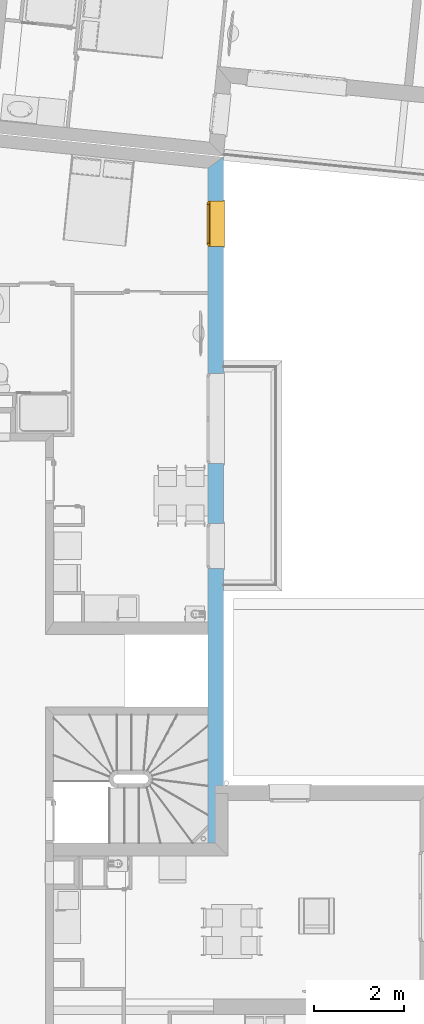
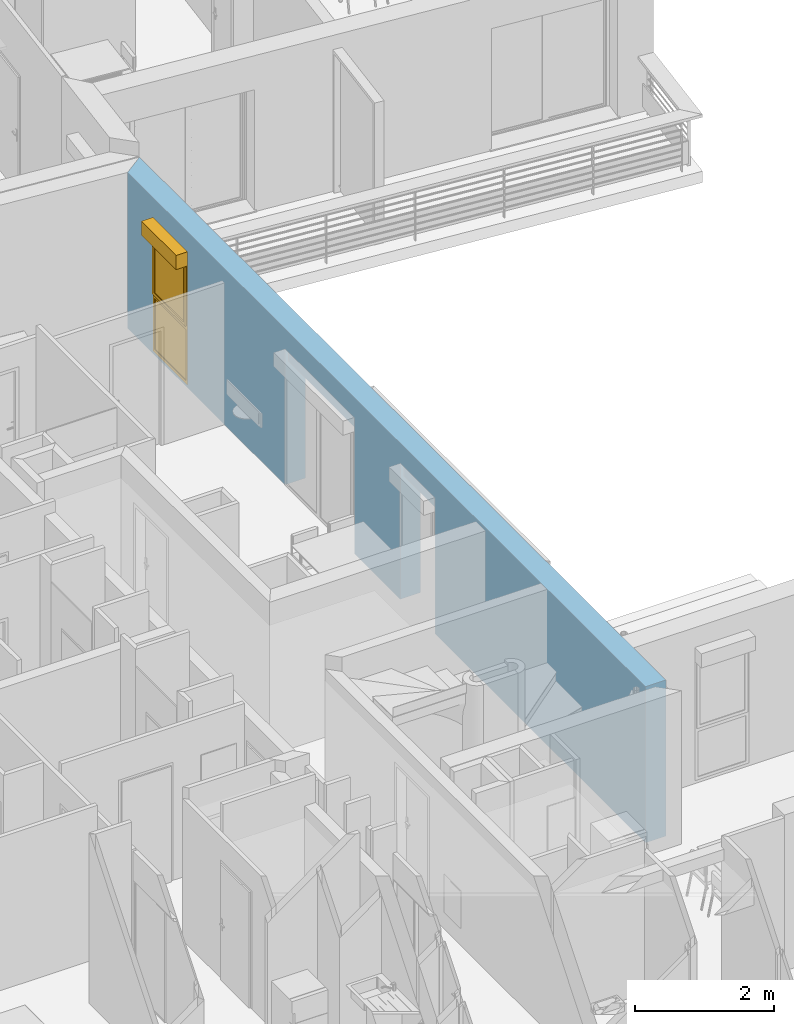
# One storey, part 33 of 164: 1 window, 3 openings, plus 1 element that does not belong to this part.
"""IFC2X3 building model written with IfcOpenShell, lengths in millimetres."""

from ifc_helpers import new_model, entity, si_unit, converted_unit, derived_unit, money_unit, direction, frame, origin_with_axes, place, context, subcontext, project, spatial, polyline, outline, extrude, open_shell, faceted_brep, surface_model, source, transform, mapped, material, layer, layer_set, layer_usage, type_object, element, fill, save


model = new_model("IFC2X3")

# Units and contexts
model_context = context("Model", 3, precision=0.01, world=origin_with_axes(), true_north=direction((0.0, 1.0)))
body_context = subcontext(model_context, "Body", "Model", "MODEL_VIEW")
ifc_project = project(units=[si_unit("LENGTHUNIT", "METRE", prefix="MILLI"), si_unit("AREAUNIT", "SQUARE_METRE"), si_unit("VOLUMEUNIT", "CUBIC_METRE"), converted_unit("PLANEANGLEUNIT", "DEGREE", entity("IfcPlaneAngleMeasure", 0.0174532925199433), si_unit("PLANEANGLEUNIT", "RADIAN"), dimensions=[0, 0, 0, 0, 0, 0, 0]), money_unit("USD"), converted_unit("TIMEUNIT", "Year", entity("IfcTimeMeasure", 31557600.0), si_unit("TIMEUNIT", "SECOND"), dimensions=[0, 0, 1, 0, 0, 0, 0]), si_unit("MASSUNIT", "GRAM", prefix="KILO"), si_unit("THERMODYNAMICTEMPERATUREUNIT", "DEGREE_CELSIUS"), si_unit("LUMINOUSINTENSITYUNIT", "LUMEN"), si_unit("ENERGYUNIT", "JOULE", prefix="MEGA"), derived_unit("THERMALCONDUCTANCEUNIT", [(si_unit("POWERUNIT", "WATT"), 1), (si_unit("LENGTHUNIT", "METRE"), -1), (si_unit("THERMODYNAMICTEMPERATUREUNIT", "KELVIN"), -1)]), derived_unit("SPECIFICHEATCAPACITYUNIT", [(si_unit("ENERGYUNIT", "JOULE"), 1), (si_unit("MASSUNIT", "GRAM", prefix="KILO"), -1), (si_unit("THERMODYNAMICTEMPERATUREUNIT", "KELVIN"), -1)]), derived_unit("MASSDENSITYUNIT", [(si_unit("MASSUNIT", "GRAM", prefix="KILO"), 1), (si_unit("VOLUMEUNIT", "CUBIC_METRE"), -1)])], contexts=[model_context])

# Site, building, storey
site_placement = place(None, origin_with_axes())
site = spatial("IfcSite", under=ifc_project, at=site_placement, Name="Site", CompositionType="ELEMENT")
building_placement = place(site_placement, origin_with_axes())
building = spatial("IfcBuilding", under=site, at=building_placement, Name="Bâtiment", CompositionType="ELEMENT")
storey_placement = place(building_placement, frame((0.0, 0.0, 5750.0), z_axis=(0.0, 0.0, 1.0), x_axis=(1.0, 0.0, 0.0)))
storey = spatial("IfcBuildingStorey", under=building, at=storey_placement, Name="Etage1", CompositionType="ELEMENT", Elevation=5750.0)

# Wall, openings, window
ifc_material_1 = material(Name="Parpaing 312445824")
ifc_layer_1 = layer(ifc_material_1, 180.0, ventilated="UNKNOWN")
ifc_material_2 = material(Name="Isolant styromousse 301821074")
ifc_layer_2 = layer(ifc_material_2, 160.0, ventilated="UNKNOWN")
ifc_layer_set = layer_set([ifc_layer_1, ifc_layer_2], Name="isol int 18+16 0018356637")
ifc_layer_usage = layer_usage(ifc_layer_set, "AXIS2", "POSITIVE", 0.0)
wall_type = type_object("IfcWallType", Name="isol int 18+16 0018356637 340", PredefinedType="NOTDEFINED")
wall_placement = place(storey_placement, frame((2229653.476036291, -637226.9969240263, 0.0), z_axis=(0.0, 0.0, 1.0), x_axis=(1.956350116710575e-10, 1.0, 0.0)))
wall = element("IfcWallStandardCase", 1, at=wall_placement, inside=storey, type_object=wall_type, material=ifc_layer_usage, Name="Mur-144", context=body_context, shape_type="SweptSolid", body=[
    extrude(outline(polyline([(0.0, 0.0), (15194.46708703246, 0.0), (14947.57710369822, 340.0000000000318), (0.0, 340.0000000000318), (0.0, 0.0)])), origin_with_axes(), (0.0, 0.0, 1.0), 2750.0),
])
opening_1_placement = place(wall_placement, frame((9401.851616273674, 0.0, 0.0), z_axis=(0.0, 0.0, 1.0), x_axis=(1.0, 0.0, 0.0)))
element("IfcOpeningElement", 2, at=opening_1_placement, cuts=wall, Name="Fen-207", context=body_context, shape_type="Brep", body=[
    faceted_brep([(999.9999999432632, 290.000002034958, 2150.0), (999.9999999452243, 280.0000020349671, 2150.0), (1000.000000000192, -1.000000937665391, 2150.0), (1000.000000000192, -1.000000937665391, 0.0), (999.9999999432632, 290.000002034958, 0.0), (999.9999999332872, 341.0000020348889, 2150.0), (999.9999998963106, 530.0000020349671, 2150.0), (999.9999998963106, 530.0000020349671, 2400.0), (999.9999999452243, 280.0000020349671, 2400.0), (-1000.000000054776, 280.0000016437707, 2150.0), (-999.9999999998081, -1.000001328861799, 2150.0), (-999.9999999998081, -1.000001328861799, 0.0), (-1000.000000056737, 290.0000016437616, 0.0), (-1000.000000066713, 341.0000016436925, 0.0), (999.9999999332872, 341.0000020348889, 0.0), (-1000.000000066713, 341.0000016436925, 2150.0), (-1000.000000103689, 530.0000016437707, 2150.0), (-1000.000000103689, 530.0000016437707, 2400.0), (-1000.000000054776, 280.0000016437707, 2400.0), (-1000.000000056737, 290.0000016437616, 2150.0)], [[[0, 1, 2, 3, 4]], [[1, 0, 5, 6, 7, 8]], [[1, 9, 10, 2]], [[10, 11, 3, 2]], [[4, 3, 11, 12, 13, 14]], [[5, 0, 4, 14]], [[5, 15, 16, 6]], [[7, 6, 16, 17]], [[8, 7, 17, 18]], [[9, 1, 8, 18]], [[9, 19, 12, 11, 10]], [[19, 15, 13, 12]], [[15, 5, 14, 13]], [[19, 9, 18, 17, 16, 15]]]),
])
opening_2_placement = place(wall_placement, frame((13719.0374769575, 0.0, 49.99999999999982), z_axis=(0.0, 0.0, 1.0), x_axis=(1.0, 0.0, 0.0)))
opening_2 = element("IfcOpeningElement", 3, at=opening_2_placement, cuts=wall, Name="Fen-133", context=body_context, shape_type="Brep", body=[
    faceted_brep([(499.9999999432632, 290.0000027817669, 2100.0), (499.9999999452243, 280.0000027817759, 2100.0), (500.0000000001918, -1.000000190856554, 2100.0), (500.0000000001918, -1.000000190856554, 0.0), (499.9999999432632, 290.0000027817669, 0.0), (499.9999999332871, 341.0000027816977, 2100.0), (499.9999998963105, 530.000002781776, 2100.0), (499.9999998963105, 530.000002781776, 2350.0), (499.9999999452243, 280.0000027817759, 2350.0), (-500.0000000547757, 280.0000025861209, 2100.0), (-499.9999999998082, -1.000000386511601, 2100.0), (-499.9999999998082, -1.000000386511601, 0.0), (-500.0000000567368, 290.0000025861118, 0.0), (-500.0000000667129, 341.0000025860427, 0.0), (499.9999999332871, 341.0000027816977, 0.0), (-500.0000000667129, 341.0000025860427, 2100.0), (-500.0000001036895, 530.0000025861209, 2100.0), (-500.0000001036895, 530.0000025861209, 2350.0), (-500.0000000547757, 280.0000025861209, 2350.0), (-500.0000000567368, 290.0000025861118, 2100.0)], [[[0, 1, 2, 3, 4]], [[1, 0, 5, 6, 7, 8]], [[1, 9, 10, 2]], [[10, 11, 3, 2]], [[4, 3, 11, 12, 13, 14]], [[5, 0, 4, 14]], [[5, 15, 16, 6]], [[7, 6, 16, 17]], [[8, 7, 17, 18]], [[9, 1, 8, 18]], [[9, 19, 12, 11, 10]], [[19, 15, 13, 12]], [[15, 5, 14, 13]], [[19, 9, 18, 17, 16, 15]]]),
])
opening_3_placement = place(wall_placement, frame((6575.924083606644, 0.0, 0.0), z_axis=(0.0, 0.0, 1.0), x_axis=(1.0, 0.0, 0.0)))
element("IfcOpeningElement", 4, at=opening_3_placement, cuts=wall, Name="Fen-134", context=body_context, shape_type="Brep", body=[
    faceted_brep([(499.9999999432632, 290.0000013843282, 2150.0), (499.9999999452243, 280.0000013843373, 2150.0), (500.0000000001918, -1.000001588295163, 2150.0), (500.0000000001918, -1.000001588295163, 0.0), (499.9999999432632, 290.0000013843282, 0.0), (499.9999999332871, 341.0000013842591, 2150.0), (499.9999998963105, 530.0000013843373, 2150.0), (499.9999998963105, 530.0000013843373, 2400.0), (499.9999999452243, 280.0000013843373, 2400.0), (-500.0000000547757, 280.0000011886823, 2150.0), (-499.9999999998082, -1.000001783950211, 2150.0), (-499.9999999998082, -1.000001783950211, 0.0), (-500.0000000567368, 290.0000011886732, 0.0), (-500.0000000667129, 341.0000011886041, 0.0), (499.9999999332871, 341.0000013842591, 0.0), (-500.0000000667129, 341.0000011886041, 2150.0), (-500.0000001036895, 530.0000011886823, 2150.0), (-500.0000001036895, 530.0000011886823, 2400.0), (-500.0000000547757, 280.0000011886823, 2400.0), (-500.0000000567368, 290.0000011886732, 2150.0)], [[[0, 1, 2, 3, 4]], [[1, 0, 5, 6, 7, 8]], [[1, 9, 10, 2]], [[10, 11, 3, 2]], [[4, 3, 11, 12, 13, 14]], [[5, 0, 4, 14]], [[5, 15, 16, 6]], [[16, 17, 7, 6]], [[17, 18, 8, 7]], [[9, 1, 8, 18]], [[9, 19, 12, 11, 10]], [[19, 15, 13, 12]], [[15, 5, 14, 13]], [[19, 9, 18, 17, 16, 15]]]),
])
window_style = type_object("IfcWindowStyle", Name="Fenêtre 27", ConstructionType="NOTDEFINED", OperationType="DOUBLE_PANEL_HORIZONTAL", ParameterTakesPrecedence=False, Sizeable=False)
shared_shape = source(origin_with_axes(), body_context, "Body", "SurfaceModel", [
    surface_model("IfcShellBasedSurfaceModel", [(500.0, -51.00000000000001, 40.00000000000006), (500.0, -51.00000000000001, 50.00000000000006), (-500.0, -51.00000000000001, 50.0), (-500.0, -51.00000000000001, 40.0), (530.0, -369.9999999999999, 28.96551724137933), (530.0, -339.9999999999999, 30.00324289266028), (500.0, -339.9999999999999, 30.00324289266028), (-500.0, -339.9999999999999, 30.00324289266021), (-530.0, -339.9999999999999, 30.00324289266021), (-530.0, -369.9999999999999, 28.96551724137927), (530.0, -369.9999999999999, 8.96551724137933), (-530.0, -369.9999999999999, 8.965517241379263), (530.0, -359.9999999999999, 18.96551724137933), (-530.0, -359.9999999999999, 18.96551724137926)], [open_shell([[[0, 1, 2, 3]], [[4, 5, 6, 0, 3, 7, 8, 9]], [[10, 4, 9, 11]], [[12, 10, 11, 13]]])]),
    faceted_brep([(-500.0, -59.99999999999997, 2350.0), (-497.0, -59.99999999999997, 2350.0), (-497.0, 190.0, 2350.0), (-500.0, 190.0, 2350.0), (-500.0, -59.99999999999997, 2100.0), (-497.0, -59.99999999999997, 2100.0), (-497.0, 190.0, 2100.0), (-500.0, 190.0, 2100.0)], [[[0, 1, 2, 3]], [[4, 5, 1, 0]], [[1, 5, 6, 2]], [[3, 2, 6, 7]], [[0, 3, 7, 4]], [[7, 6, 5, 4]]]),
    faceted_brep([(497.0, -59.99999999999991, 2350.0), (500.0, -59.99999999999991, 2350.0), (500.0, 190.0000000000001, 2350.0), (497.0, 190.0000000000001, 2350.0), (497.0, -59.99999999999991, 2100.0), (500.0, -59.99999999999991, 2100.0), (500.0, 190.0000000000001, 2100.0), (497.0, 190.0000000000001, 2100.0)], [[[0, 1, 2, 3]], [[4, 5, 1, 0]], [[1, 5, 6, 2]], [[3, 2, 6, 7]], [[0, 3, 7, 4]], [[7, 6, 5, 4]]]),
    faceted_brep([(-497.0, -60.0, 2100.0), (497.0, -59.99999999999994, 2100.0), (497.0, -59.99999999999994, 2350.0), (-497.0, -60.0, 2350.0), (-497.0, -56.99999999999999, 2100.0), (497.0, -56.99999999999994, 2100.0), (497.0, -56.99999999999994, 2347.0), (497.0, 187.0000000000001, 2347.0), (497.0, 187.0000000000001, 2103.0), (497.0, -37.99999999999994, 2103.0), (497.0, -37.99999999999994, 2100.0), (497.0, 190.0000000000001, 2100.0), (497.0, 190.0000000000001, 2350.0), (-497.0, 190.0, 2350.0), (-497.0, 190.0, 2100.0), (-497.0, -37.99999999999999, 2100.0), (-497.0, -37.99999999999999, 2103.0), (-497.0, 187.0, 2103.0), (-497.0, 187.0, 2347.0), (-497.0, -56.99999999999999, 2347.0)], [[[0, 1, 2, 3]], [[4, 5, 1, 0]], [[1, 5, 6, 7, 8, 9, 10, 11, 12, 2]], [[3, 2, 12, 13]], [[0, 3, 13, 14, 15, 16, 17, 18, 19, 4]], [[19, 6, 5, 4]], [[18, 7, 6, 19]], [[17, 8, 7, 18]], [[16, 9, 8, 17]], [[15, 10, 9, 16]], [[14, 11, 10, 15]], [[13, 12, 11, 14]]]),
    faceted_brep([(-494.0, -40.37442957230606, 2206.419644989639), (-494.0, -41.99999999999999, 2225.0), (-494.0, -40.37442957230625, 2243.580355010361), (-494.0, -35.54711042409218, 2261.596155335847), (-494.0, -27.66471820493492, 2278.5), (-494.0, -16.96675541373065, 2293.77827423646), (-494.0, -3.778274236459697, 2306.966755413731), (-494.0, 11.5, 2317.664718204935), (-494.0, 28.40384466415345, 2325.547110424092), (-494.0, 46.41964498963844, 2330.374429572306), (-494.0, 64.99999999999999, 2332.0), (-494.0, 83.58035501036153, 2330.374429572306), (-494.0, 101.5961553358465, 2325.547110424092), (-494.0, 118.5, 2317.664718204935), (-494.0, 133.7782742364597, 2306.966755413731), (-494.0, 146.9667554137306, 2293.77827423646), (-494.0, 157.6647182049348, 2278.5), (-494.0, 165.5471104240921, 2261.596155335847), (-494.0, 170.3744295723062, 2243.580355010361), (-494.0, 171.9999999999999, 2225.0), (-494.0, 170.3744295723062, 2206.419644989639), (-494.0, 165.5471104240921, 2188.403844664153), (-494.0, 157.6647182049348, 2171.5), (-494.0, 146.9667554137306, 2156.22172576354), (-494.0, 133.7782742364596, 2143.03324458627), (-494.0, 118.4999999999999, 2132.335281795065), (-494.0, 101.5961553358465, 2124.452889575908), (-494.0, 83.58035501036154, 2119.625570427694), (-494.0, 65.00000000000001, 2118.0), (-494.0, 46.4196449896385, 2119.625570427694), (-494.0, 28.40384466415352, 2124.452889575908), (-494.0, 11.50000000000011, 2132.335281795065), (-494.0, -3.778274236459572, 2143.03324458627), (-494.0, -16.9667554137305, 2156.22172576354), (-494.0, -27.66471820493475, 2171.5), (-494.0, -35.54711042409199, 2188.403844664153), (494.0, -40.374429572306, 2206.419644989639), (494.0, -41.99999999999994, 2225.0), (494.0, -40.37442957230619, 2243.580355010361), (494.0, -35.54711042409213, 2261.596155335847), (494.0, -27.66471820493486, 2278.5), (494.0, -16.96675541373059, 2293.77827423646), (494.0, -3.778274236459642, 2306.966755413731), (494.0, 11.50000000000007, 2317.664718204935), (494.0, 28.40384466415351, 2325.547110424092), (494.0, 46.41964498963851, 2330.374429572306), (494.0, 65.00000000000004, 2332.0), (494.0, 83.58035501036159, 2330.374429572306), (494.0, 101.5961553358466, 2325.547110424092), (494.0, 118.5, 2317.664718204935), (494.0, 133.7782742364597, 2306.966755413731), (494.0, 146.9667554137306, 2293.77827423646), (494.0, 157.6647182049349, 2278.5), (494.0, 165.5471104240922, 2261.596155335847), (494.0, 170.3744295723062, 2243.580355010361), (494.0, 172.0, 2225.0), (494.0, 170.3744295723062, 2206.419644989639), (494.0, 165.5471104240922, 2188.403844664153), (494.0, 157.6647182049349, 2171.5), (494.0, 146.9667554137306, 2156.22172576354), (494.0, 133.7782742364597, 2143.03324458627), (494.0, 118.5, 2132.335281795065), (494.0, 101.5961553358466, 2124.452889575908), (494.0, 83.5803550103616, 2119.625570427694), (494.0, 65.00000000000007, 2118.0), (494.0, 46.41964498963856, 2119.625570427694), (494.0, 28.40384466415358, 2124.452889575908), (494.0, 11.50000000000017, 2132.335281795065), (494.0, -3.778274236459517, 2143.03324458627), (494.0, -16.96675541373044, 2156.22172576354), (494.0, -27.6647182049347, 2171.5), (494.0, -35.54711042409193, 2188.403844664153)], [[[0, 1, 2, 3, 4, 5, 6, 7, 8, 9, 10, 11, 12, 13, 14, 15, 16, 17, 18, 19, 20, 21, 22, 23, 24, 25, 26, 27, 28, 29, 30, 31, 32, 33, 34, 35]], [[0, 36, 37, 1]], [[1, 37, 38, 2]], [[2, 38, 39, 3]], [[3, 39, 40, 4]], [[4, 40, 41, 5]], [[5, 41, 42, 6]], [[6, 42, 43, 7]], [[7, 43, 44, 8]], [[8, 44, 45, 9]], [[9, 45, 46, 10]], [[10, 46, 47, 11]], [[11, 47, 48, 12]], [[12, 48, 49, 13]], [[13, 49, 50, 14]], [[14, 50, 51, 15]], [[15, 51, 52, 16]], [[16, 52, 53, 17]], [[17, 53, 54, 18]], [[18, 54, 55, 19]], [[19, 55, 56, 20]], [[20, 56, 57, 21]], [[21, 57, 58, 22]], [[22, 58, 59, 23]], [[23, 59, 60, 24]], [[24, 60, 61, 25]], [[25, 61, 62, 26]], [[26, 62, 63, 27]], [[27, 63, 64, 28]], [[28, 64, 65, 29]], [[29, 65, 66, 30]], [[30, 66, 67, 31]], [[31, 67, 68, 32]], [[32, 68, 69, 33]], [[33, 69, 70, 34]], [[34, 70, 71, 35]], [[35, 71, 36, 0]], [[36, 71, 70, 69, 68, 67, 66, 65, 64, 63, 62, 61, 60, 59, 58, 57, 56, 55, 54, 53, 52, 51, 50, 49, 48, 47, 46, 45, 44, 43, 42, 41, 40, 39, 38, 37]]]),
    faceted_brep([(500.0, -34.99999999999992, 30.0), (500.0, -34.99999999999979, 2100.0), (500.0, -59.99999999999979, 2100.0), (500.0, -59.99999999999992, 30.0), (475.0, -34.99999999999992, 30.0), (475.0, -34.99999999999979, 2100.0), (475.0, -37.99999999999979, 2100.0), (497.0, -37.99999999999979, 2100.0), (497.0, -56.99999999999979, 2100.0), (475.0, -56.99999999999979, 2100.0), (475.0, -59.99999999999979, 2100.0), (475.0, -59.99999999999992, 30.0), (475.0, -56.99999999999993, 30.0), (497.0, -56.99999999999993, 30.0), (497.0, -37.99999999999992, 30.0), (475.0, -37.99999999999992, 30.0)], [[[0, 1, 2, 3]], [[4, 5, 1, 0]], [[1, 5, 6, 7, 8, 9, 10, 2]], [[3, 2, 10, 11]], [[0, 3, 11, 12, 13, 14, 15, 4]], [[15, 6, 5, 4]], [[14, 7, 6, 15]], [[13, 8, 7, 14]], [[12, 9, 8, 13]], [[11, 10, 9, 12]]]),
    faceted_brep([(-500.0, -34.99999999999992, 30.0), (-500.0, -59.99999999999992, 30.0), (-500.0, -59.99999999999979, 2100.0), (-500.0, -34.99999999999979, 2100.0), (-475.0, -34.99999999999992, 30.0), (-475.0, -37.99999999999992, 30.0), (-497.0, -37.99999999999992, 30.0), (-497.0, -56.99999999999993, 30.0), (-475.0, -56.99999999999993, 30.0), (-475.0, -59.99999999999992, 30.0), (-475.0, -59.99999999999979, 2100.0), (-475.0, -56.99999999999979, 2100.0), (-497.0, -56.99999999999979, 2100.0), (-497.0, -37.99999999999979, 2100.0), (-475.0, -37.99999999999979, 2100.0), (-475.0, -34.99999999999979, 2100.0)], [[[0, 1, 2, 3]], [[0, 4, 5, 6, 7, 8, 9, 1]], [[1, 9, 10, 2]], [[3, 2, 10, 11, 12, 13, 14, 15]], [[4, 0, 3, 15]], [[5, 4, 15, 14]], [[6, 5, 14, 13]], [[7, 6, 13, 12]], [[8, 7, 12, 11]], [[9, 8, 11, 10]]]),
    faceted_brep([(497.0, -46.66666666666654, 2225.0), (497.0, -46.66666666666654, 2216.666666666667), (-497.0, -46.6666666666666, 2216.666666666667), (-497.0, -46.6666666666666, 2225.0), (497.0, -51.66666666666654, 2225.0), (497.0, -51.66666666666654, 2216.666666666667), (497.0, -49.99999999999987, 2200.0), (497.0, -44.99999999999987, 2200.0), (-497.0, -44.99999999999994, 2200.0), (-497.0, -49.99999999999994, 2200.0), (-497.0, -51.6666666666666, 2216.666666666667), (-497.0, -51.6666666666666, 2225.0)], [[[0, 1, 2, 3]], [[4, 5, 6, 7, 1, 0]], [[2, 1, 7, 8]], [[3, 2, 8, 9, 10, 11]], [[3, 11, 4, 0]], [[10, 5, 4, 11]], [[9, 6, 5, 10]], [[8, 7, 6, 9]]]),
    faceted_brep([(-497.0, -44.99999999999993, 2200.0), (497.0, -44.99999999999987, 2200.0), (497.0, -46.66666666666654, 2183.333333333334), (-497.0, -46.6666666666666, 2183.333333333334), (-497.0, -49.99999999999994, 2200.0), (497.0, -49.99999999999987, 2200.0), (497.0, -51.66666666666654, 2183.333333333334), (497.0, -51.66666666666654, 2166.666666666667), (497.0, -49.99999999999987, 2150.000000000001), (497.0, -44.99999999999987, 2150.000000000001), (497.0, -46.66666666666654, 2166.666666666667), (-497.0, -46.6666666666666, 2166.666666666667), (-497.0, -44.99999999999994, 2150.000000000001), (-497.0, -49.99999999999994, 2150.000000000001), (-497.0, -51.6666666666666, 2166.666666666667), (-497.0, -51.6666666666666, 2183.333333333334)], [[[0, 1, 2, 3]], [[4, 5, 1, 0]], [[1, 5, 6, 7, 8, 9, 10, 2]], [[3, 2, 10, 11]], [[0, 3, 11, 12, 13, 14, 15, 4]], [[15, 6, 5, 4]], [[14, 7, 6, 15]], [[13, 8, 7, 14]], [[12, 9, 8, 13]], [[11, 10, 9, 12]]]),
    faceted_brep([(-497.0, -44.99999999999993, 2150.000000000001), (497.0, -44.99999999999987, 2150.000000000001), (497.0, -46.66666666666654, 2133.333333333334), (-497.0, -46.6666666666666, 2133.333333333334), (-497.0, -49.99999999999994, 2150.000000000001), (497.0, -49.99999999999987, 2150.000000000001), (497.0, -51.66666666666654, 2133.333333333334), (497.0, -51.66666666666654, 2116.666666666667), (497.0, -49.99999999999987, 2100.000000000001), (497.0, -44.99999999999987, 2100.000000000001), (497.0, -46.66666666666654, 2116.666666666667), (-497.0, -46.6666666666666, 2116.666666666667), (-497.0, -44.99999999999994, 2100.000000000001), (-497.0, -49.99999999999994, 2100.000000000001), (-497.0, -51.6666666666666, 2116.666666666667), (-497.0, -51.6666666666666, 2133.333333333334)], [[[0, 1, 2, 3]], [[4, 5, 1, 0]], [[1, 5, 6, 7, 8, 9, 10, 2]], [[3, 2, 10, 11]], [[0, 3, 11, 12, 13, 14, 15, 4]], [[15, 6, 5, 4]], [[14, 7, 6, 15]], [[13, 8, 7, 14]], [[12, 9, 8, 13]], [[11, 10, 9, 12]]]),
    faceted_brep([(-475.0000000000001, 0.0, 2050.0), (-500.0, 0.0, 2050.0), (-500.0, -50.00000000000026, 2050.0), (-450.0, -50.00000000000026, 2050.0), (-450.0, -25.00000000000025, 2050.0), (-475.0000000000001, -25.00000000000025, 2050.0), (-475.0000000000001, 0.0, 1025.0), (-450.0, 0.0, 1025.0), (-450.0, 0.0, 950.0), (-450.0, 0.0, 50.00000000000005), (-500.0, 0.0, 50.00000000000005), (-500.0, -50.00000000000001, 50.00000000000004), (-450.0, -50.00000000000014, 1050.0), (-450.0, -50.00000000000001, 50.00000000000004), (-450.0, -50.00000000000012, 950.0), (-450.0, -25.00000000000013, 1050.0), (-450.0, -25.00000000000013, 1025.0), (-475.0000000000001, -25.00000000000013, 1025.0)], [[[0, 1, 2, 3, 4, 5]], [[6, 7, 8, 9, 10, 1, 0]], [[1, 10, 11, 2]], [[12, 3, 2, 11, 13, 14]], [[4, 3, 12, 15]], [[15, 16, 17, 5, 4]], [[5, 17, 6, 0]], [[6, 17, 16, 7]], [[16, 15, 12, 14, 8, 7]], [[9, 8, 14, 13]], [[10, 9, 13, 11]]]),
    faceted_brep([(450.0, -25.00000000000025, 2050.0), (450.0, -50.00000000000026, 2050.0), (500.0, -50.00000000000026, 2050.0), (500.0, 0.0, 2050.0), (475.0000000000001, 0.0, 2050.0), (475.0000000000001, -25.00000000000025, 2050.0), (450.0, -25.00000000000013, 1050.0), (450.0, -50.00000000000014, 1050.0), (500.0, -50.00000000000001, 50.00000000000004), (450.0, -50.00000000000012, 950.0), (450.0, -50.00000000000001, 50.00000000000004), (500.0, 0.0, 50.00000000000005), (475.0000000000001, 0.0, 1025.0), (450.0, 0.0, 50.00000000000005), (450.0, 0.0, 950.0), (450.0, 0.0, 1025.0), (475.0000000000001, -25.00000000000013, 1025.0), (450.0, -25.00000000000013, 1025.0)], [[[0, 1, 2, 3, 4, 5]], [[6, 7, 1, 0]], [[8, 2, 1, 7, 9, 10]], [[11, 3, 2, 8]], [[12, 4, 3, 11, 13, 14, 15]], [[12, 16, 5, 4]], [[5, 16, 17, 6, 0]], [[17, 15, 14, 9, 7, 6]], [[14, 13, 10, 9]], [[13, 11, 8, 10]], [[15, 17, 16, 12]]]),
    faceted_brep([(-450.0, -25.00000000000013, 1050.0), (-450.0, -50.00000000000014, 1050.0), (450.0, -50.00000000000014, 1050.0), (450.0, -25.00000000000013, 1050.0), (-450.0, -25.00000000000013, 1025.0), (-450.0, 0.0, 1025.0), (-450.0, 0.0, 950.0), (-450.0, -50.00000000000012, 950.0), (450.0, -50.00000000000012, 950.0), (450.0, -25.00000000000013, 1025.0), (450.0, 0.0, 950.0), (450.0, 0.0, 1025.0)], [[[0, 1, 2, 3]], [[4, 5, 6, 7, 1, 0]], [[8, 2, 1, 7]], [[9, 3, 2, 8, 10, 11]], [[9, 4, 0, 3]], [[5, 4, 9, 11]], [[11, 10, 6, 5]], [[6, 10, 8, 7]]]),
    faceted_brep([(-475.0000000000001, 0.0, 2050.0), (-500.0, 0.0, 2050.0), (-500.0, 0.0, 2100.0), (500.0, 0.0, 2100.0), (500.0, 0.0, 2050.0), (475.0000000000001, 0.0, 2050.0), (475.0000000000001, 0.0, 2075.0), (-475.0000000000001, 0.0, 2075.0), (-475.0000000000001, -25.00000000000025, 2050.0), (-450.0, -25.00000000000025, 2050.0), (-450.0, -50.00000000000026, 2050.0), (-500.0, -50.00000000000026, 2050.0), (-500.0, -50.00000000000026, 2100.0), (500.0, -50.00000000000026, 2100.0), (500.0, -50.00000000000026, 2050.0), (475.0000000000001, -25.00000000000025, 2050.0), (450.0, -50.00000000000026, 2050.0), (450.0, -25.00000000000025, 2050.0), (475.0000000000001, -25.00000000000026, 2075.0), (-475.0000000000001, -25.00000000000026, 2075.0)], [[[0, 1, 2, 3, 4, 5, 6, 7]], [[8, 9, 10, 11, 1, 0]], [[2, 1, 11, 12]], [[3, 2, 12, 13]], [[4, 3, 13, 14]], [[15, 5, 4, 14, 16, 17]], [[5, 15, 18, 6]], [[6, 18, 19, 7]], [[7, 19, 8, 0]], [[17, 9, 8, 19, 18, 15]], [[17, 16, 10, 9]], [[14, 13, 12, 11, 10, 16]]]),
    faceted_brep([(-450.0, -50.00000000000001, 50.0), (-450.0, 0.0, 50.00000000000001), (-500.0, 0.0, 50.00000000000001), (-500.0, -50.00000000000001, 50.0), (450.0, -50.00000000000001, 50.0), (450.0, 0.0, 50.00000000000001), (500.0, 0.0, 50.00000000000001), (500.0, 0.0, 0.0), (-500.0, 0.0, 0.0), (-500.0, -50.0, 0.0), (500.0, -50.0, 0.0), (500.0, -50.00000000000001, 50.0)], [[[0, 1, 2, 3]], [[4, 5, 1, 0]], [[1, 5, 6, 7, 8, 2]], [[3, 2, 8, 9]], [[0, 3, 9, 10, 11, 4]], [[11, 6, 5, 4]], [[10, 7, 6, 11]], [[9, 8, 7, 10]]]),
    faceted_brep([(-425.0000000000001, -25.00000000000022, 2025.0), (-425.0000000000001, 24.99999999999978, 2025.0), (-475.0000000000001, 24.99999999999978, 2025.0), (-475.0000000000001, -25.00000000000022, 2025.0), (-425.0000000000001, -25.00000000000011, 1075.0), (-425.0000000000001, 24.9999999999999, 1075.0), (-475.0000000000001, 24.9999999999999, 1075.0), (-475.0000000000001, -25.0000000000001, 1075.0)], [[[0, 1, 2, 3]], [[4, 5, 1, 0]], [[1, 5, 6, 2]], [[3, 2, 6, 7]], [[0, 3, 7, 4]], [[7, 6, 5, 4]]]),
    faceted_brep([(425.0000000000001, -25.00000000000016, 1075.0), (425.0000000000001, 24.99999999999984, 1075.0), (475.0000000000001, 24.99999999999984, 1075.0), (475.0000000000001, -25.00000000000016, 1075.0), (425.0000000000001, -25.00000000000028, 2025.0), (425.0000000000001, 24.99999999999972, 2025.0), (475.0000000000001, 24.99999999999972, 2025.0), (475.0000000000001, -25.00000000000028, 2025.0)], [[[0, 1, 2, 3]], [[4, 5, 1, 0]], [[1, 5, 6, 2]], [[3, 2, 6, 7]], [[0, 3, 7, 4]], [[7, 6, 5, 4]]]),
    faceted_brep([(475.0000000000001, -25.00000000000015, 1025.0), (475.0000000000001, 24.99999999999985, 1025.0), (475.0000000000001, 24.99999999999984, 1075.0), (475.0000000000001, -25.00000000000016, 1075.0), (-475.0000000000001, -25.0000000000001, 1025.0), (-475.0000000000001, 24.9999999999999, 1025.0), (-475.0000000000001, 24.9999999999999, 1075.0), (-425.0000000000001, 24.9999999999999, 1075.0), (425.0000000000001, 24.99999999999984, 1075.0), (425.0000000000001, -25.00000000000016, 1075.0), (-425.0000000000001, -25.00000000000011, 1075.0), (-475.0000000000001, -25.0000000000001, 1075.0)], [[[0, 1, 2, 3]], [[4, 5, 1, 0]], [[1, 5, 6, 7, 8, 2]], [[3, 2, 8, 9]], [[0, 3, 9, 10, 11, 4]], [[11, 6, 5, 4]], [[10, 7, 6, 11]], [[9, 8, 7, 10]]]),
    faceted_brep([(-475.0000000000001, -25.00000000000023, 2075.0), (-475.0000000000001, 24.99999999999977, 2075.0), (-475.0000000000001, 24.99999999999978, 2025.0), (-475.0000000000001, -25.00000000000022, 2025.0), (475.0000000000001, -25.00000000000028, 2075.0), (475.0000000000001, 24.99999999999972, 2075.0), (475.0000000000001, 24.99999999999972, 2025.0), (425.0000000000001, 24.99999999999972, 2025.0), (-425.0000000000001, 24.99999999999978, 2025.0), (-425.0000000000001, -25.00000000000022, 2025.0), (425.0000000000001, -25.00000000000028, 2025.0), (475.0000000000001, -25.00000000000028, 2025.0)], [[[0, 1, 2, 3]], [[4, 5, 1, 0]], [[1, 5, 6, 7, 8, 2]], [[3, 2, 8, 9]], [[0, 3, 9, 10, 11, 4]], [[11, 6, 5, 4]], [[10, 7, 6, 11]], [[9, 8, 7, 10]]]),
    surface_model("IfcShellBasedSurfaceModel", [(-425.0000000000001, -10.00000000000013, 1075.0), (425.0000000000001, -10.00000000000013, 1075.0), (425.0000000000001, -10.00000000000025, 2025.0), (-425.0000000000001, -10.00000000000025, 2025.0)], [open_shell([[[0, 1, 2, 3]]])]),
    surface_model("IfcShellBasedSurfaceModel", [(-425.0000000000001, 9.999999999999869, 1075.0), (-425.0000000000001, 9.999999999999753, 2025.0), (425.0000000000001, 9.999999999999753, 2025.0), (425.0000000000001, 9.999999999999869, 1075.0)], [open_shell([[[0, 1, 2, 3]]])]),
    surface_model("IfcShellBasedSurfaceModel", [(-450.0, -35.0, 49.99999999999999), (450.0, -35.0, 49.99999999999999), (450.0, -35.00000000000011, 950.0), (-450.0, -35.00000000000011, 950.0)], [open_shell([[[0, 1, 2, 3]]])]),
    surface_model("IfcShellBasedSurfaceModel", [(-450.0, -15.0, 49.99999999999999), (-450.0, -15.00000000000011, 950.0), (450.0, -15.00000000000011, 950.0), (450.0, -15.0, 49.99999999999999)], [open_shell([[[0, 1, 2, 3]]])]),
])
window_placement = place(opening_2_placement, frame((-500.0000000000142, -1.13686837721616e-10, 0.0), z_axis=(0.0, 0.0, 1.0), x_axis=(1.0, 0.0, 0.0)))
window = element("IfcWindow", 5, at=window_placement, inside=storey, type_object=window_style, Name="Fen-133", OverallHeight=2100.0, OverallWidth=1000.0, context=body_context, shape_type="MappedRepresentation", body=[
    mapped(shared_shape, transform((499.9999999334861, 340.0000026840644, 0.0))),
])
fill(opening_2, window)

save(model, "model.ifc")
